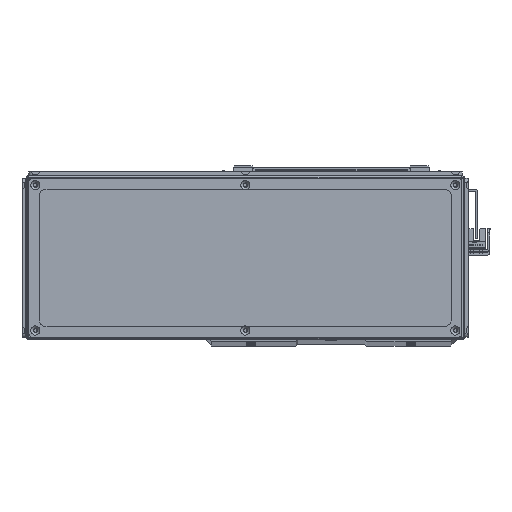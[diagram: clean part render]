
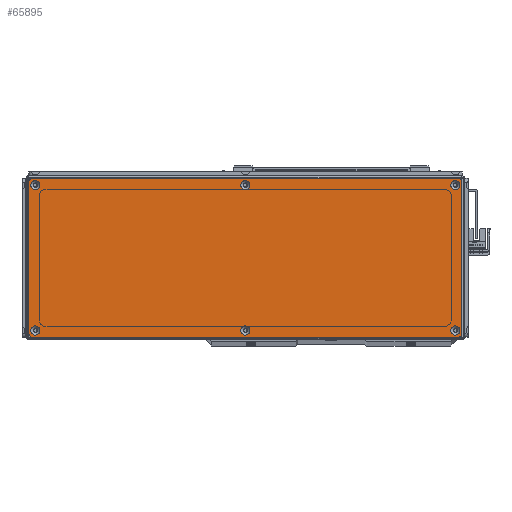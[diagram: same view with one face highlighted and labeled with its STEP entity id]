
A CAD part, top view. The second image highlights one B-rep face of the part: STEP entity #65895.
In plain terms, the highlighted planar face has unit normal (0, 0, 1) as drawn and (0, -1, 0) by its records, which use the part's own axes.
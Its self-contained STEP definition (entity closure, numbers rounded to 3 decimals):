
#1168=FACE_BOUND('',#9822,.T.);
#1169=FACE_BOUND('',#9823,.T.);
#1170=FACE_BOUND('',#9824,.T.);
#1171=FACE_BOUND('',#9825,.T.);
#1172=FACE_BOUND('',#9826,.T.);
#1173=FACE_BOUND('',#9827,.T.);
#1998=PLANE('',#71013);
#5952=FACE_OUTER_BOUND('',#9821,.T.);
#9821=EDGE_LOOP('',(#51721,#51722,#51723,#51724,#51725,#51726,#51727,#51728));
#9822=EDGE_LOOP('',(#51729));
#9823=EDGE_LOOP('',(#51730));
#9824=EDGE_LOOP('',(#51731));
#9825=EDGE_LOOP('',(#51732));
#9826=EDGE_LOOP('',(#51733));
#9827=EDGE_LOOP('',(#51734));
#14295=LINE('',#99038,#22139);
#14296=LINE('',#99042,#22140);
#14297=LINE('',#99046,#22141);
#14298=LINE('',#99049,#22142);
#22139=VECTOR('',#80479,10.);
#22140=VECTOR('',#80482,10.);
#22141=VECTOR('',#80485,10.);
#22142=VECTOR('',#80488,10.);
#29073=CIRCLE('',#70981,3.45);
#29076=CIRCLE('',#70986,3.45);
#29079=CIRCLE('',#70991,3.45);
#29082=CIRCLE('',#70996,3.45);
#29085=CIRCLE('',#71001,3.45);
#29088=CIRCLE('',#71006,3.45);
#29091=CIRCLE('',#71011,3.);
#29093=CIRCLE('',#71014,3.);
#29094=CIRCLE('',#71015,3.);
#29095=CIRCLE('',#71016,3.);
#31597=VERTEX_POINT('',#98968);
#31600=VERTEX_POINT('',#98978);
#31603=VERTEX_POINT('',#98988);
#31606=VERTEX_POINT('',#98998);
#31609=VERTEX_POINT('',#99008);
#31612=VERTEX_POINT('',#99018);
#31615=VERTEX_POINT('',#99028);
#31616=VERTEX_POINT('',#99029);
#31619=VERTEX_POINT('',#99037);
#31620=VERTEX_POINT('',#99039);
#31621=VERTEX_POINT('',#99041);
#31622=VERTEX_POINT('',#99043);
#31623=VERTEX_POINT('',#99045);
#31624=VERTEX_POINT('',#99047);
#38988=EDGE_CURVE('',#31597,#31597,#29073,.T.);
#38993=EDGE_CURVE('',#31600,#31600,#29076,.T.);
#38998=EDGE_CURVE('',#31603,#31603,#29079,.T.);
#39003=EDGE_CURVE('',#31606,#31606,#29082,.T.);
#39008=EDGE_CURVE('',#31609,#31609,#29085,.T.);
#39013=EDGE_CURVE('',#31612,#31612,#29088,.T.);
#39018=EDGE_CURVE('',#31615,#31616,#29091,.T.);
#39022=EDGE_CURVE('',#31615,#31619,#14295,.T.);
#39023=EDGE_CURVE('',#31620,#31619,#29093,.T.);
#39024=EDGE_CURVE('',#31620,#31621,#14296,.T.);
#39025=EDGE_CURVE('',#31622,#31621,#29094,.T.);
#39026=EDGE_CURVE('',#31622,#31623,#14297,.T.);
#39027=EDGE_CURVE('',#31624,#31623,#29095,.T.);
#39028=EDGE_CURVE('',#31624,#31616,#14298,.T.);
#51721=ORIENTED_EDGE('',*,*,#39018,.F.);
#51722=ORIENTED_EDGE('',*,*,#39022,.T.);
#51723=ORIENTED_EDGE('',*,*,#39023,.F.);
#51724=ORIENTED_EDGE('',*,*,#39024,.T.);
#51725=ORIENTED_EDGE('',*,*,#39025,.F.);
#51726=ORIENTED_EDGE('',*,*,#39026,.T.);
#51727=ORIENTED_EDGE('',*,*,#39027,.F.);
#51728=ORIENTED_EDGE('',*,*,#39028,.T.);
#51729=ORIENTED_EDGE('',*,*,#38988,.T.);
#51730=ORIENTED_EDGE('',*,*,#38993,.T.);
#51731=ORIENTED_EDGE('',*,*,#38998,.T.);
#51732=ORIENTED_EDGE('',*,*,#39003,.T.);
#51733=ORIENTED_EDGE('',*,*,#39008,.T.);
#51734=ORIENTED_EDGE('',*,*,#39013,.T.);
#65895=ADVANCED_FACE('',(#5952,#1168,#1169,#1170,#1171,#1172,#1173),#1998,
 .T.);
#70981=AXIS2_PLACEMENT_3D('',#98969,#80399,#80400);
#70986=AXIS2_PLACEMENT_3D('',#98979,#80411,#80412);
#70991=AXIS2_PLACEMENT_3D('',#98989,#80423,#80424);
#70996=AXIS2_PLACEMENT_3D('',#98999,#80435,#80436);
#71001=AXIS2_PLACEMENT_3D('',#99009,#80447,#80448);
#71006=AXIS2_PLACEMENT_3D('',#99019,#80459,#80460);
#71011=AXIS2_PLACEMENT_3D('',#99030,#80471,#80472);
#71013=AXIS2_PLACEMENT_3D('',#99036,#80477,#80478);
#71014=AXIS2_PLACEMENT_3D('',#99040,#80480,#80481);
#71015=AXIS2_PLACEMENT_3D('',#99044,#80483,#80484);
#71016=AXIS2_PLACEMENT_3D('',#99048,#80486,#80487);
#80399=DIRECTION('center_axis',(0.,1.,0.));
#80400=DIRECTION('ref_axis',(1.,0.,0.));
#80411=DIRECTION('center_axis',(0.,1.,0.));
#80412=DIRECTION('ref_axis',(1.,0.,0.));
#80423=DIRECTION('center_axis',(0.,1.,0.));
#80424=DIRECTION('ref_axis',(1.,0.,0.));
#80435=DIRECTION('center_axis',(0.,1.,0.));
#80436=DIRECTION('ref_axis',(1.,0.,0.));
#80447=DIRECTION('center_axis',(0.,1.,0.));
#80448=DIRECTION('ref_axis',(1.,0.,0.));
#80459=DIRECTION('center_axis',(0.,1.,0.));
#80460=DIRECTION('ref_axis',(1.,0.,0.));
#80471=DIRECTION('center_axis',(0.,1.,0.));
#80472=DIRECTION('ref_axis',(-0.707,0.,0.707));
#80477=DIRECTION('center_axis',(0.,-1.,0.));
#80478=DIRECTION('ref_axis',(0.,0.,-1.));
#80479=DIRECTION('',(0.,0.,-1.));
#80480=DIRECTION('center_axis',(0.,1.,0.));
#80481=DIRECTION('ref_axis',(-0.707,0.,-0.707));
#80482=DIRECTION('',(1.,0.,0.));
#80483=DIRECTION('center_axis',(0.,1.,0.));
#80484=DIRECTION('ref_axis',(0.707,0.,-0.707));
#80485=DIRECTION('',(0.,0.,1.));
#80486=DIRECTION('center_axis',(0.,1.,0.));
#80487=DIRECTION('ref_axis',(0.707,0.,0.707));
#80488=DIRECTION('',(-1.,0.,0.));
#98968=CARTESIAN_POINT('',(154.05,-1.5,54.5));
#98969=CARTESIAN_POINT('Origin',(157.5,-1.5,54.5));
#98978=CARTESIAN_POINT('',(-3.45,-1.5,54.5));
#98979=CARTESIAN_POINT('Origin',(0.,-1.5,54.5));
#98988=CARTESIAN_POINT('',(-160.95,-1.5,54.5));
#98989=CARTESIAN_POINT('Origin',(-157.5,-1.5,54.5));
#98998=CARTESIAN_POINT('',(-160.95,-1.5,-54.5));
#98999=CARTESIAN_POINT('Origin',(-157.5,-1.5,-54.5));
#99008=CARTESIAN_POINT('',(-3.45,-1.5,-54.5));
#99009=CARTESIAN_POINT('Origin',(0.,-1.5,-54.5));
#99018=CARTESIAN_POINT('',(154.05,-1.5,-54.5));
#99019=CARTESIAN_POINT('Origin',(157.5,-1.5,-54.5));
#99028=CARTESIAN_POINT('',(-162.5,-1.5,56.5));
#99029=CARTESIAN_POINT('',(-159.5,-1.5,59.5));
#99030=CARTESIAN_POINT('Origin',(-159.5,-1.5,56.5));
#99036=CARTESIAN_POINT('Origin',(0.,-1.5,0.));
#99037=CARTESIAN_POINT('',(-162.5,-1.5,-56.5));
#99038=CARTESIAN_POINT('',(-162.5,-1.5,59.5));
#99039=CARTESIAN_POINT('',(-159.5,-1.5,-59.5));
#99040=CARTESIAN_POINT('Origin',(-159.5,-1.5,-56.5));
#99041=CARTESIAN_POINT('',(159.5,-1.5,-59.5));
#99042=CARTESIAN_POINT('',(-162.5,-1.5,-59.5));
#99043=CARTESIAN_POINT('',(162.5,-1.5,-56.5));
#99044=CARTESIAN_POINT('Origin',(159.5,-1.5,-56.5));
#99045=CARTESIAN_POINT('',(162.5,-1.5,56.5));
#99046=CARTESIAN_POINT('',(162.5,-1.5,-59.5));
#99047=CARTESIAN_POINT('',(159.5,-1.5,59.5));
#99048=CARTESIAN_POINT('Origin',(159.5,-1.5,56.5));
#99049=CARTESIAN_POINT('',(162.5,-1.5,59.5));
